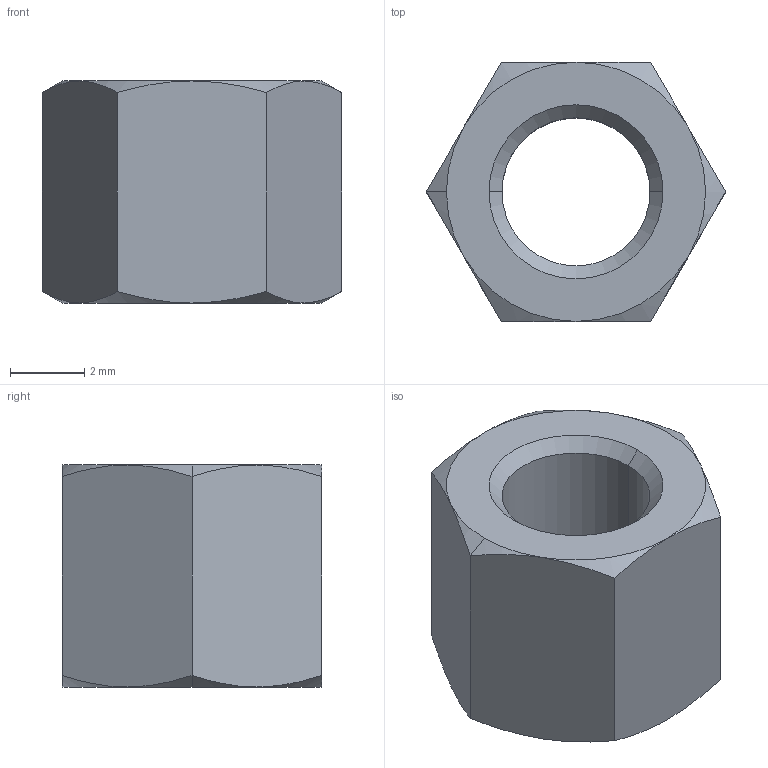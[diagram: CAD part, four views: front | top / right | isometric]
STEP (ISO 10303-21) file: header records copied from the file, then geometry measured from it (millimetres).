
FILE_DESCRIPTION (( 'STEP AP203' ), '1' );
FILE_NAME ('N0503.040-006-NP.step', '2025-02-27T14:42:02', ( '' ), ( '' ), 'SwSTEP 2.0', 'SolidWorks 2019', '' );
FILE_SCHEMA (( 'CONFIG_CONTROL_DESIGN' ));
Length unit declared in the file: millimetre
Products named in the file (1): N0503.040-006-NP
Bounding box: 8.08 x 7 x 6 mm (x, y, z)
Volume: 176.8 mm3; surface area: 271.8 mm2
Topology: 1 solids, 1 shells, 28 faces, 60 edges, 34 vertices
Faces by surface type: cone 18, plane 8, cylinder 2
Entity records: 875 total; most frequent: CARTESIAN_POINT 223, ORIENTED_EDGE 120, DIRECTION 116, EDGE_CURVE 60, AXIS2_PLACEMENT_3D 51, VERTEX_POINT 34, EDGE_LOOP 30, FACE_OUTER_BOUND 28
